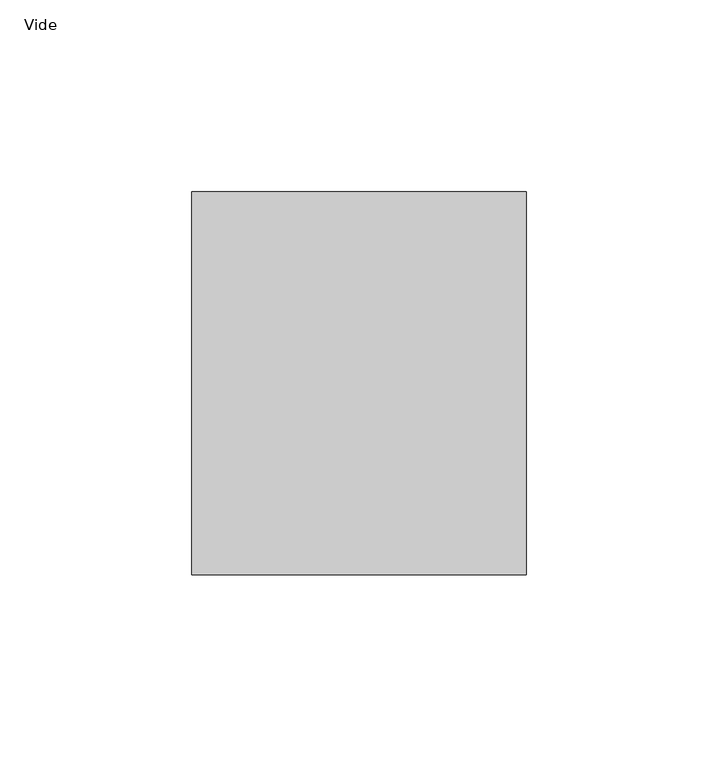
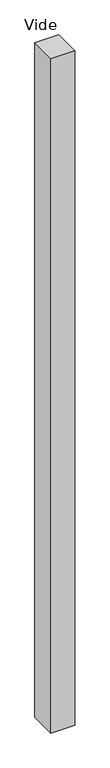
"""IFC4 building model written with IfcOpenShell, lengths in millimetres: plate geometry, Panneau système vide : Vide."""

import ifcopenshell
import ifcopenshell.guid

model = None  # the IFC model being written
_history = None  # IfcOwnerHistory: only IFC2X3 demands one
_inside = {}  # id of a spatial element -> (the spatial element, [elements in it])
_under = {}  # id of a project, library or spatial element -> (it, [spatial elements below it])
_declared = {}  # id of a project -> (the project, [libraries it declares])
_typed = {}  # id of a type object -> (the type object, [elements of that type])
_made_of = {}  # id of a material, layer set ... -> (it, [elements and type objects made of it])


def new_model(schema):
    """Start an empty IFC model of exactly this schema.

    Asked for "IFC4X3", IfcOpenShell would pick the latest addendum, in which some entities
    have other attributes; the version numbers below select the first issue.
    IFC2X3 requires an IfcOwnerHistory on every rooted entity: one is made here for all.
    """
    global model, _history
    if schema == "IFC4X3":
        model = ifcopenshell.file(schema_version=(4, 3, 0, 0))
    else:
        model = ifcopenshell.file(schema=schema)
    _inside.clear()
    _under.clear()
    _declared.clear()
    _typed.clear()
    _made_of.clear()
    _history = None
    if model.schema == "IFC2X3":
        org = make("IfcOrganization", Name="unknown")
        user = make(
            "IfcPersonAndOrganization",
            ThePerson=make("IfcPerson", FamilyName="unknown"),
            TheOrganization=org,
        )
        app = make(
            "IfcApplication",
            ApplicationDeveloper=org,
            Version="unknown",
            ApplicationFullName="unknown",
            ApplicationIdentifier="unknown",
        )
        _history = make(
            "IfcOwnerHistory",
            OwningUser=user,
            OwningApplication=app,
            ChangeAction="ADDED",
            CreationDate=0,
        )
    return model


def make(cls, **values):
    """One entity of the class cls with the attributes given. An attribute that is None is left unset."""
    return model.create_entity(
        cls, **{name: value for name, value in values.items() if value is not None}
    )


def rooted(cls, **values):
    """An entity with a GlobalId (a new one), such as an element, a storey or a relation."""
    return make(cls, GlobalId=ifcopenshell.guid.new(), OwnerHistory=_history, **values)


def si_unit(unit_type, name, prefix=None):
    """IfcSIUnit, for example si_unit("LENGTHUNIT", "METRE", prefix="MILLI")."""
    return make("IfcSIUnit", UnitType=unit_type, Prefix=prefix, Name=name)


def assignment(units):
    """IfcUnitAssignment: the units of a project."""
    return None if units is None else make("IfcUnitAssignment", Units=units)


def point(xyz):
    """IfcCartesianPoint."""
    return None if xyz is None else make("IfcCartesianPoint", Coordinates=xyz)


def direction(xyz):
    """IfcDirection."""
    return None if xyz is None else make("IfcDirection", DirectionRatios=xyz)


def frame(location, z_axis=None, x_axis=None):
    """IfcAxis2Placement3D, a coordinate frame: its origin and axes. An axis left out is left unset."""
    return make(
        "IfcAxis2Placement3D",
        Location=point(location),
        Axis=direction(z_axis),
        RefDirection=direction(x_axis),
    )


def origin():
    """The frame at (0, 0, 0) with its axes left unset."""
    return frame((0.0, 0.0, 0.0))


def origin_with_axes():
    """The frame at (0, 0, 0) with the z axis (0, 0, 1) and the x axis (1, 0, 0) written out."""
    return frame((0.0, 0.0, 0.0), z_axis=(0.0, 0.0, 1.0), x_axis=(1.0, 0.0, 0.0))


def place(relative_to, where):
    """IfcLocalPlacement: puts the frame where relative to a parent placement (None: the world)."""
    return make(
        "IfcLocalPlacement", PlacementRelTo=relative_to, RelativePlacement=where
    )


def context(
    kind, dimensions, precision=None, world=None, true_north=None, identifier=None
):
    """IfcGeometricRepresentationContext, for example the 3D "Model" context."""
    return make(
        "IfcGeometricRepresentationContext",
        ContextIdentifier=identifier,
        ContextType=kind,
        CoordinateSpaceDimension=dimensions,
        Precision=precision,
        WorldCoordinateSystem=world,
        TrueNorth=true_north,
    )


def project(units=None, contexts=None):
    """IfcProject with its units and contexts."""
    return rooted(
        "IfcProject",
        Name="project",
        RepresentationContexts=contexts,
        UnitsInContext=assignment(units),
    )


def spatial(cls, under=None, at=None, **own):
    """A site, building, storey or space (cls), placed at a placement, below another one or the project."""
    s = rooted(cls, ObjectPlacement=at, **own)
    if under is not None:
        _under.setdefault(under.id(), (under, []))[1].append(s)
    return s


def polyline(points):
    """IfcPolyline through the points."""
    return make("IfcPolyline", Points=[point(p) for p in points])


def outline(outer, holes=None, kind="AREA"):
    """IfcArbitraryClosedProfileDef: a profile drawn as a closed curve; with holes, ...WithVoids."""
    if holes is None:
        return make("IfcArbitraryClosedProfileDef", ProfileType=kind, OuterCurve=outer)
    return make(
        "IfcArbitraryProfileDefWithVoids",
        ProfileType=kind,
        OuterCurve=outer,
        InnerCurves=holes,
    )


def extrude(swept, where, along, depth):
    """IfcExtrudedAreaSolid: the profile swept, set in the frame where, extruded along a direction by depth."""
    return make(
        "IfcExtrudedAreaSolid",
        SweptArea=swept,
        Position=where,
        ExtrudedDirection=direction(along),
        Depth=depth,
    )


def shape(context_of_items, identifier, shape_type, items):
    """IfcShapeRepresentation: the items that make up one representation, for example the "Body"."""
    return make(
        "IfcShapeRepresentation",
        ContextOfItems=context_of_items,
        RepresentationIdentifier=identifier,
        RepresentationType=shape_type,
        Items=items,
    )


def source(mapping_origin, context_of_items, identifier, shape_type, items):
    """IfcRepresentationMap: a shape defined once, which mapped items show again and again."""
    return make(
        "IfcRepresentationMap",
        MappingOrigin=mapping_origin,
        MappedRepresentation=shape(context_of_items, identifier, shape_type, items),
    )


def transform(
    local_origin,
    x_axis=None,
    y_axis=None,
    z_axis=None,
    scale=None,
    scale2=None,
    scale3=None,
    uniform=True,
):
    """IfcCartesianTransformationOperator3D, or its non-uniform kind. x_axis, y_axis, z_axis: its Axis1, 2, 3."""
    if uniform:
        return make(
            "IfcCartesianTransformationOperator3D",
            Axis1=direction(x_axis),
            Axis2=direction(y_axis),
            LocalOrigin=point(local_origin),
            Scale=scale,
            Axis3=direction(z_axis),
        )
    return make(
        "IfcCartesianTransformationOperator3DnonUniform",
        Axis1=direction(x_axis),
        Axis2=direction(y_axis),
        LocalOrigin=point(local_origin),
        Scale=scale,
        Axis3=direction(z_axis),
        Scale2=scale2,
        Scale3=scale3,
    )


def mapped(mapping_source, mapping_target):
    """IfcMappedItem: shows the shape of a source again, moved by a transform."""
    return make(
        "IfcMappedItem", MappingSource=mapping_source, MappingTarget=mapping_target
    )


def made_of(thing, what):
    """Note that an element or type object is made of a material, layer set ...; save() writes the relation."""
    if what is not None:
        _made_of.setdefault(what.id(), (what, []))[1].append(thing)
    return thing


def element(
    cls,
    number,
    at=None,
    inside=None,
    cuts=None,
    type_object=None,
    material=None,
    context=None,
    identifier="Body",
    shape_type=None,
    held_by="IfcProductDefinitionShape",
    body=None,
    shapes=None,
    **own,
):
    """One element of the class cls, such as IfcWall. Its Tag is "e" and its number.

    at: its placement. inside: the storey or other place that contains it. cuts: it is an
    opening in that element (IfcRelVoidsElement). A single representation is given by context,
    identifier, shape_type and body (its items); several are given by shapes. held_by: the class
    of the entity that holds the representations. save() writes the other relations.
    """
    e = rooted(cls, Tag="e%d" % number, ObjectPlacement=at, **own)
    if body is not None:
        shapes = [shape(context, identifier, shape_type, body)]
    if shapes is not None:
        e.Representation = make(held_by, Representations=shapes)
    if inside is not None:
        _inside.setdefault(inside.id(), (inside, []))[1].append(e)
    if cuts is not None:
        rooted(
            "IfcRelVoidsElement", RelatingBuildingElement=cuts, RelatedOpeningElement=e
        )
    if type_object is not None:
        _typed.setdefault(type_object.id(), (type_object, []))[1].append(e)
    return made_of(e, material)


def aggregate(whole, parts):
    """IfcRelAggregates: a whole, such as a stair, and the parts it consists of."""
    return rooted("IfcRelAggregates", RelatingObject=whole, RelatedObjects=parts)


def save(model, path):
    """Write the relations noted so far, then the file.

    IfcRelAggregates (storeys below a building ...), IfcRelContainedInSpatialStructure (elements
    in a storey), IfcRelDefinesByType, IfcRelAssociatesMaterial and IfcRelDeclares: one each for
    every whole, place, type object, material and project.
    """
    for whole, parts in _under.values():
        aggregate(whole, parts)
    for where, things in _inside.values():
        rooted(
            "IfcRelContainedInSpatialStructure",
            RelatedElements=things,
            RelatingStructure=where,
        )
    for kind, things in _typed.values():
        rooted("IfcRelDefinesByType", RelatedObjects=things, RelatingType=kind)
    for what, things in _made_of.values():
        rooted("IfcRelAssociatesMaterial", RelatedObjects=things, RelatingMaterial=what)
    for by, libraries in _declared.values():
        rooted("IfcRelDeclares", RelatingContext=by, RelatedDefinitions=libraries)
    model.write(path)


def vide_2511c875(model_context):
    return source(origin(), model_context, "Body", "SweptSolid", [
        extrude(outline(polyline([(43.6449961, 50.0), (-43.6449961, 50.0), (-43.6449961, 150.0), (43.6449961, 150.0), (43.6449961, 50.0)])), origin_with_axes(), (0.0, 0.0, 1.0), 2588.190451),
    ])


if __name__ == "__main__":
    model = new_model("IFC4")
    model_context = context("Model", 3, world=origin())
    ifc_project = project(units=[si_unit("LENGTHUNIT", "METRE", prefix="MILLI")], contexts=[model_context])
    site = spatial("IfcSite", under=ifc_project)
    building = spatial("IfcBuilding", under=site)
    placement = place(None, origin())
    vide_shape = vide_2511c875(model_context)
    element("IfcPlate", 1, ObjectType="Panneau système vide : Vide", at=placement, inside=building, context=model_context, shape_type="MappedRepresentation", body=[
        mapped(vide_shape, transform((0.0, 0.0, 0.0), x_axis=(1.0, 0.0, 0.0), y_axis=(0.0, 1.0, 0.0), z_axis=(0.0, 0.0, 1.0))),
    ])
    save(model, "model.ifc")
